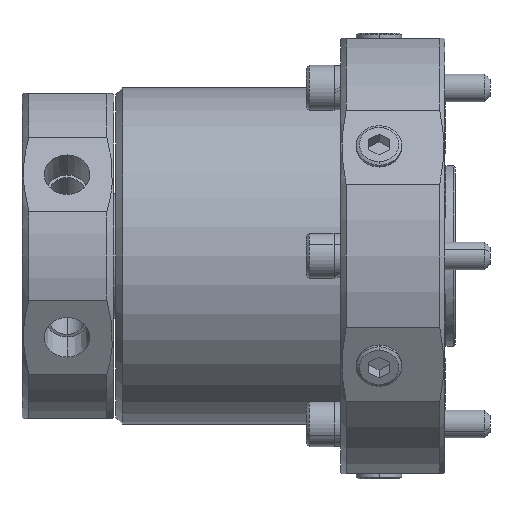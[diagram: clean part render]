
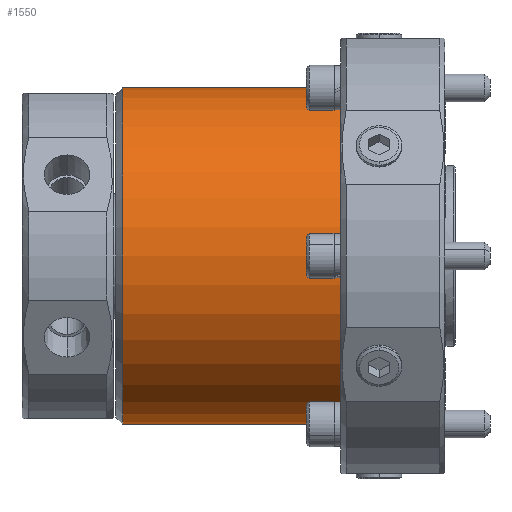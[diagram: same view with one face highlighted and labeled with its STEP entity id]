
A CAD part, left-side view. The second image highlights one B-rep face of the part: STEP entity #1550.
In plain terms, the highlighted cylindrical face has radius 48.5 mm (diameter 97 mm), a partial arc.
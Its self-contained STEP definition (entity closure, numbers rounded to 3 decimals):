
#1493=CARTESIAN_POINT('',(0.0,-2.857,-48.5));
#1494=VERTEX_POINT('',#1493);
#1495=CARTESIAN_POINT('',(0.0,-2.857,48.5));
#1496=VERTEX_POINT('',#1495);
#1497=CARTESIAN_POINT('',(0.0,-2.857,0.0));
#1498=DIRECTION('',(0.0,1.0,0.0));
#1499=DIRECTION('',(0.0,0.0,1.0));
#1500=AXIS2_PLACEMENT_3D('',#1497,#1498,#1499);
#1501=CIRCLE('',#1500,48.5);
#1502=EDGE_CURVE('no 3949',#1494,#1496,#1501,.T.);
#1519=CARTESIAN_POINT('',(0.0,60.143,-48.5));
#1520=VERTEX_POINT('',#1519);
#1521=CARTESIAN_POINT('',(0.0,-2.857,-48.5));
#1522=DIRECTION('',(-0.0,1.0,0.0));
#1523=VECTOR('',#1522,1.0);
#1524=LINE('',#1521,#1523);
#1525=EDGE_CURVE('no 3963',#1494,#1520,#1524,.T.);
#1526=ORIENTED_EDGE('',*,*,#1525,.F.);
#1527=ORIENTED_EDGE('',*,*,#1502,.T.);
#1528=CARTESIAN_POINT('',(0.0,60.143,48.5));
#1529=VERTEX_POINT('',#1528);
#1530=CARTESIAN_POINT('',(0.0,-2.857,48.5));
#1531=DIRECTION('',(0.0,1.0,0.0));
#1532=VECTOR('',#1531,1.0);
#1533=LINE('',#1530,#1532);
#1534=EDGE_CURVE('no 3971',#1496,#1529,#1533,.T.);
#1535=ORIENTED_EDGE('',*,*,#1534,.T.);
#1536=CARTESIAN_POINT('',(0.0,60.143,0.0));
#1537=DIRECTION('',(0.0,-1.0,0.0));
#1538=DIRECTION('',(0.0,0.0,1.0));
#1539=AXIS2_PLACEMENT_3D('',#1536,#1537,#1538);
#1540=CIRCLE('',#1539,48.5);
#1541=EDGE_CURVE('no 3975',#1529,#1520,#1540,.T.);
#1542=ORIENTED_EDGE('',*,*,#1541,.T.);
#1543=EDGE_LOOP('',(#1526,#1527,#1535,#1542));
#1544=FACE_OUTER_BOUND('',#1543,.T.);
#1545=CARTESIAN_POINT('',(0.0,40.14,0.0));
#1546=DIRECTION('',(0.0,1.0,0.0));
#1547=DIRECTION('',(1.0,0.0,0.0));
#1548=AXIS2_PLACEMENT_3D('',#1545,#1546,#1547);
#1549=CYLINDRICAL_SURFACE('',#1548,48.5);
#1550=ADVANCED_FACE('no 3956',(#1544),#1549,.T.);
